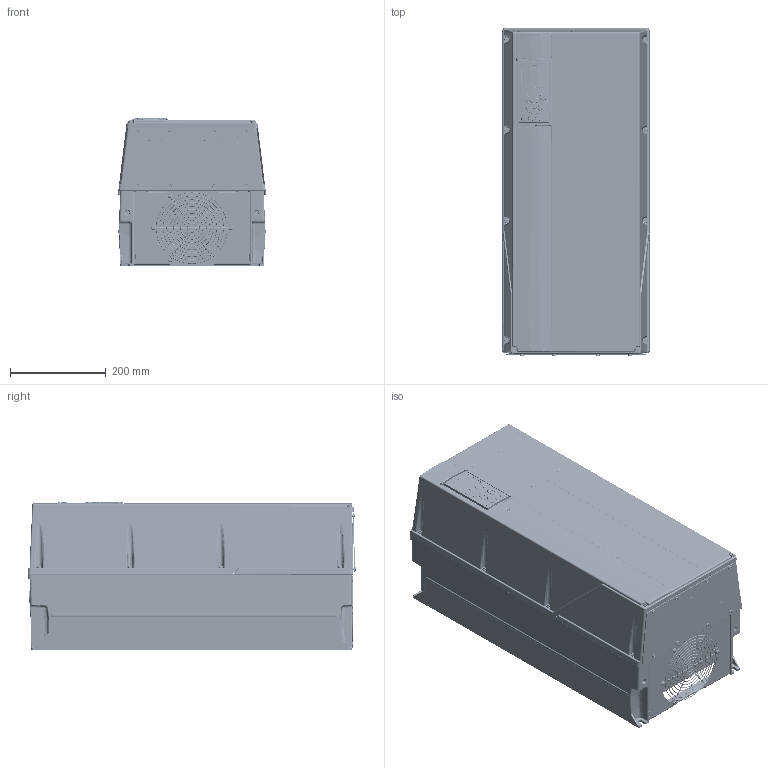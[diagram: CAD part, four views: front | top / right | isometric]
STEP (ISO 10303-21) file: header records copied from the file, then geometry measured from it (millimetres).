
FILE_DESCRIPTION((''),'2;1');
FILE_NAME('DANFOSS-FC300-C1-019','2007-11-29T',('Naushad.pm'),('dan Drives A/S'),'PRO/ENGINEER BY PARAMETRIC TECHNOLOGY CORPORATION, 2007160','PRO/ENGINEER BY PARAMETRIC TECHNOLOGY CORPORATION, 2007160','');
FILE_SCHEMA(('CONFIG_CONTROL_DESIGN', 'GEOMETRIC_VALIDATION_PROPERTIES_MIM'));
Products named in the file (1): DANFOSS-FC300-C1-019
Bounding box: 307.5 x 685.39 x 310.48 mm (x, y, z)
Volume: 47427378.9 mm3; surface area: 3543864.5 mm2
Topology: 47 solids, 47 shells, 7779 faces, 19766 edges, 12096 vertices
Faces by surface type: cylinder 2442, plane 2418, bspline 1791, torus 519, cone 353, extrusion 176, sphere 80
Entity records: 540622 total; most frequent: CARTESIAN_POINT 279634, ORIENTED_EDGE 39362, DIRECTION 30177, PRESENTATION_STYLE_ASSIGNMENT 22674, STYLED_ITEM 19728, CURVE_STYLE 19681, EDGE_CURVE 19681, VERTEX_POINT 12095
